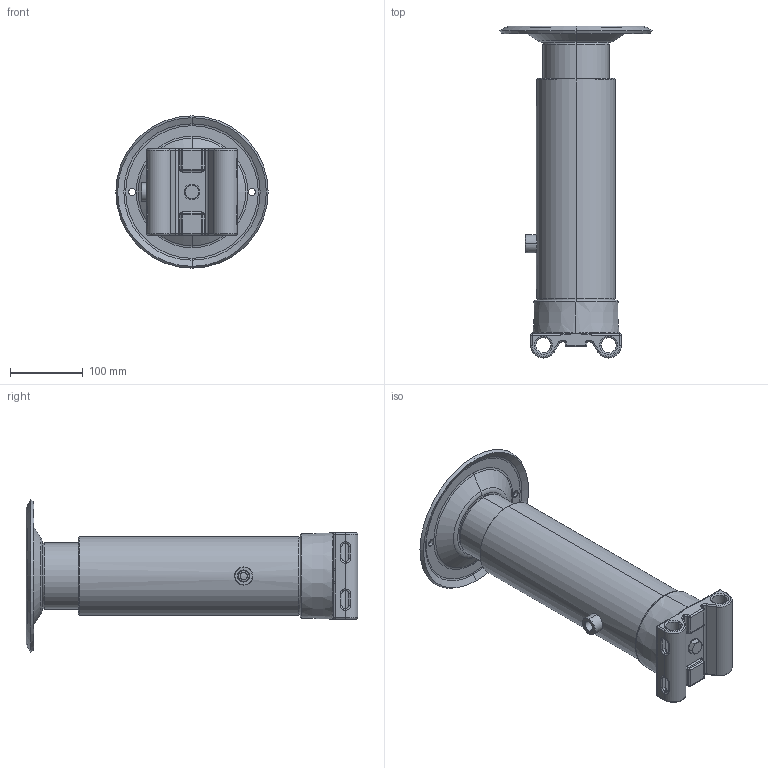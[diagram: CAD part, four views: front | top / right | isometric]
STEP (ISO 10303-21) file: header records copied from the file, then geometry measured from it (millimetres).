
FILE_DESCRIPTION (( 'STEP AP203' ), '1' );
FILE_NAME ('100.BG1SV.STEP', '2022-02-07T06:54:14', ( '' ), ( '' ), 'SwSTEP 2.0', 'SolidWorks 2021', '' );
FILE_SCHEMA (( 'CONFIG_CONTROL_DESIGN' ));
Length unit declared in the file: millimetre
Products named in the file (1): 100.BG1SV
Bounding box: 210 x 457.5 x 210 mm (x, y, z)
Surface area: 357223.2 mm2 (no closed solid volume)
Topology: 0 solids, 9 shells, 298 faces, 768 edges, 452 vertices
Faces by surface type: cylinder 100, plane 56, torus 54, bspline 40, cone 36, sphere 12
Entity records: 12099 total; most frequent: CARTESIAN_POINT 5085, DIRECTION 1518, ORIENTED_EDGE 1396, EDGE_CURVE 756, AXIS2_PLACEMENT_3D 637, VERTEX_POINT 452, CIRCLE 378, EDGE_LOOP 317
